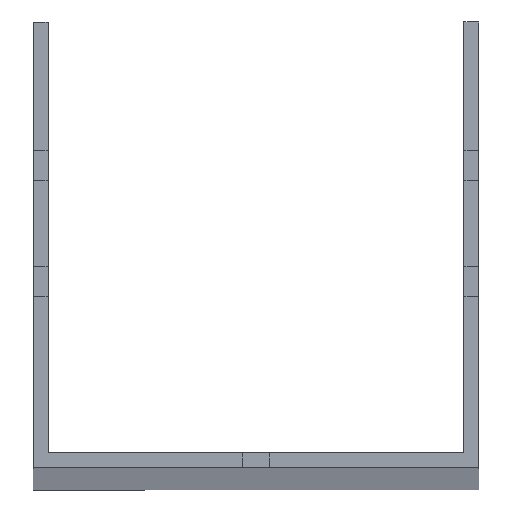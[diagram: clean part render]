
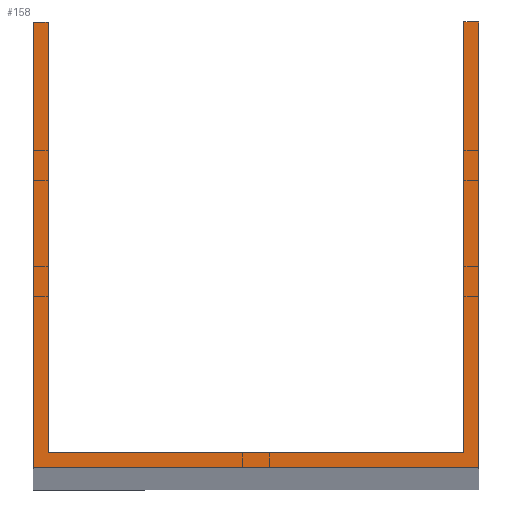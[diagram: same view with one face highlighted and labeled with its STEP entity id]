
A CAD part, top view. The second image highlights one B-rep face of the part: STEP entity #158.
In plain terms, the highlighted planar face has unit normal (0, 0, 1).
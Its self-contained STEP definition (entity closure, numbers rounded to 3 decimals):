
#117 = VERTEX_POINT ( 'NONE', #635 ) ;
#131 = DIRECTION ( 'NONE',  ( 1., 0., 0. ) ) ;
#137 = EDGE_CURVE ( 'NONE', #687, #117, #776, .T. ) ;
#141 = ORIENTED_EDGE ( 'NONE', *, *, #556, .T. ) ;
#148 = VERTEX_POINT ( 'NONE', #258 ) ;
#149 = CARTESIAN_POINT ( 'NONE',  ( 52., 104., 1500. ) ) ;
#154 = VECTOR ( 'NONE', #206, 1000. ) ;
#158 = ADVANCED_FACE ( 'NONE', ( #1279 ), #507, .T. ) ;
#190 = VERTEX_POINT ( 'NONE', #560 ) ;
#206 = DIRECTION ( 'NONE',  ( -1., 0., 0. ) ) ;
#234 = VECTOR ( 'NONE', #1270, 1000. ) ;
#252 = ORIENTED_EDGE ( 'NONE', *, *, #137, .F. ) ;
#254 = LINE ( 'NONE', #378, #843 ) ;
#258 = CARTESIAN_POINT ( 'NONE',  ( 52., 0., 1500. ) ) ;
#269 = CARTESIAN_POINT ( 'NONE',  ( 48.5, 3.5, 1500. ) ) ;
#275 = DIRECTION ( 'NONE',  ( 0., -1., 0. ) ) ;
#308 = LINE ( 'NONE', #149, #585 ) ;
#312 = CARTESIAN_POINT ( 'NONE',  ( -52., 104., 1500. ) ) ;
#314 = ORIENTED_EDGE ( 'NONE', *, *, #461, .T. ) ;
#352 = VERTEX_POINT ( 'NONE', #1491 ) ;
#378 = CARTESIAN_POINT ( 'NONE',  ( -52., 104., 1500. ) ) ;
#457 = VECTOR ( 'NONE', #1304, 1000. ) ;
#461 = EDGE_CURVE ( 'NONE', #1213, #190, #1505, .T. ) ;
#481 = AXIS2_PLACEMENT_3D ( 'NONE', #760, #1172, #131 ) ;
#484 = ORIENTED_EDGE ( 'NONE', *, *, #1626, .T. ) ;
#496 = LINE ( 'NONE', #1296, #234 ) ;
#507 = PLANE ( 'NONE',  #481 ) ;
#556 = EDGE_CURVE ( 'NONE', #772, #148, #496, .T. ) ;
#560 = CARTESIAN_POINT ( 'NONE',  ( -52., 104., 1500. ) ) ;
#585 = VECTOR ( 'NONE', #961, 1000. ) ;
#586 = VECTOR ( 'NONE', #1561, 1000. ) ;
#635 = CARTESIAN_POINT ( 'NONE',  ( 48.5, 104., 1500. ) ) ;
#687 = VERTEX_POINT ( 'NONE', #269 ) ;
#722 = EDGE_CURVE ( 'NONE', #1213, #352, #1319, .T. ) ;
#760 = CARTESIAN_POINT ( 'NONE',  ( 0., 0., 1500. ) ) ;
#772 = VERTEX_POINT ( 'NONE', #1392 ) ;
#776 = LINE ( 'NONE', #1423, #1109 ) ;
#843 = VECTOR ( 'NONE', #275, 1000. ) ;
#856 = ORIENTED_EDGE ( 'NONE', *, *, #1618, .T. ) ;
#914 = ORIENTED_EDGE ( 'NONE', *, *, #722, .F. ) ;
#920 = DIRECTION ( 'NONE',  ( 0., 1., 0. ) ) ;
#925 = CARTESIAN_POINT ( 'NONE',  ( -52., 104., 1500. ) ) ;
#961 = DIRECTION ( 'NONE',  ( 0., 1., 0. ) ) ;
#992 = LINE ( 'NONE', #1633, #1027 ) ;
#1005 = EDGE_CURVE ( 'NONE', #148, #1070, #308, .T. ) ;
#1009 = DIRECTION ( 'NONE',  ( 1., 0., 0. ) ) ;
#1010 = ORIENTED_EDGE ( 'NONE', *, *, #1005, .T. ) ;
#1027 = VECTOR ( 'NONE', #1009, 1000. ) ;
#1053 = LINE ( 'NONE', #925, #586 ) ;
#1070 = VERTEX_POINT ( 'NONE', #1086 ) ;
#1086 = CARTESIAN_POINT ( 'NONE',  ( 52., 104., 1500. ) ) ;
#1109 = VECTOR ( 'NONE', #920, 1000. ) ;
#1172 = DIRECTION ( 'NONE',  ( 0., 0., 1. ) ) ;
#1213 = VERTEX_POINT ( 'NONE', #1657 ) ;
#1270 = DIRECTION ( 'NONE',  ( 1., 0., 0. ) ) ;
#1279 = FACE_OUTER_BOUND ( 'NONE', #1642, .T. ) ;
#1280 = ORIENTED_EDGE ( 'NONE', *, *, #1468, .F. ) ;
#1296 = CARTESIAN_POINT ( 'NONE',  ( -52., 0., 1500. ) ) ;
#1304 = DIRECTION ( 'NONE',  ( 0., -1., 0. ) ) ;
#1319 = LINE ( 'NONE', #1567, #457 ) ;
#1392 = CARTESIAN_POINT ( 'NONE',  ( -52., 0., 1500. ) ) ;
#1423 = CARTESIAN_POINT ( 'NONE',  ( 48.5, 104., 1500. ) ) ;
#1468 = EDGE_CURVE ( 'NONE', #352, #687, #992, .T. ) ;
#1491 = CARTESIAN_POINT ( 'NONE',  ( -48.5, 3.5, 1500. ) ) ;
#1505 = LINE ( 'NONE', #312, #154 ) ;
#1561 = DIRECTION ( 'NONE',  ( -1., 0., 0. ) ) ;
#1567 = CARTESIAN_POINT ( 'NONE',  ( -48.5, 104., 1500. ) ) ;
#1618 = EDGE_CURVE ( 'NONE', #190, #772, #254, .T. ) ;
#1626 = EDGE_CURVE ( 'NONE', #1070, #117, #1053, .T. ) ;
#1633 = CARTESIAN_POINT ( 'NONE',  ( -52., 3.5, 1500. ) ) ;
#1642 = EDGE_LOOP ( 'NONE', ( #914, #314, #856, #141, #1010, #484, #252, #1280 ) ) ;
#1657 = CARTESIAN_POINT ( 'NONE',  ( -48.5, 104., 1500. ) ) ;
